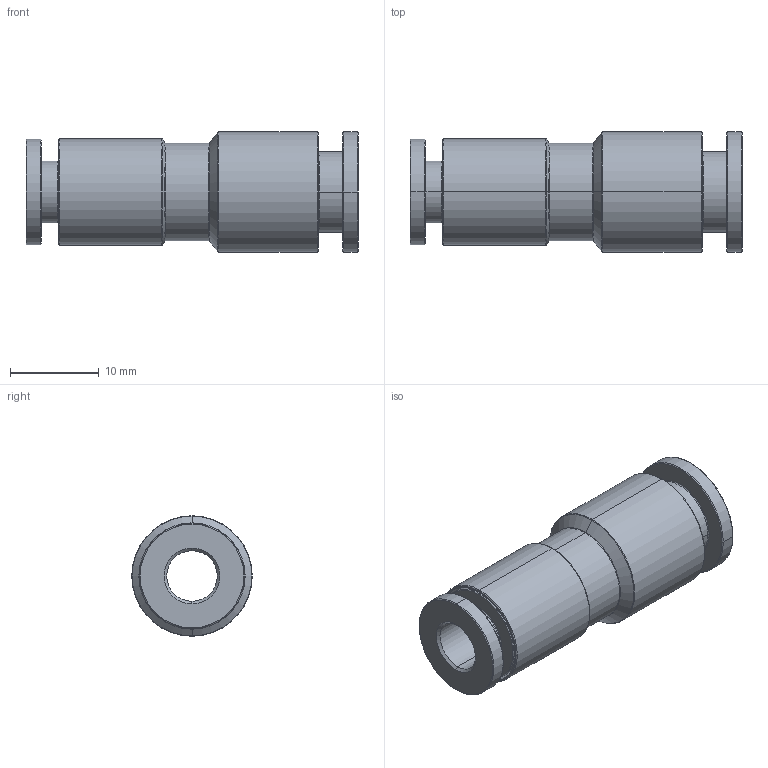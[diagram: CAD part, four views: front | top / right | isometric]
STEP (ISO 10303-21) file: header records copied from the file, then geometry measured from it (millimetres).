
FILE_DESCRIPTION((''),'2;1');
FILE_NAME('PRT0001','2025-10-29T09:04:54',('EMC03181'),(''),'CREO PARAMETRIC BY PTC INC, 2022073','CREO PARAMETRIC BY PTC INC, 2022073','');
FILE_SCHEMA(('CONFIG_CONTROL_DESIGN'));
Length unit declared in the file: millimetre
Products named in the file (1): PRT0001
Bounding box: 37.5 x 13.6 x 13.6 mm (x, y, z)
Volume: 2741.1 mm3; surface area: 4227.6 mm2
Topology: 1 solids, 1 shells, 77 faces, 154 edges, 88 vertices
Faces by surface type: torus 32, cylinder 26, plane 11, cone 8
Entity records: 2058 total; most frequent: DIRECTION 428, CARTESIAN_POINT 319, ORIENTED_EDGE 308, AXIS2_PLACEMENT_3D 197, EDGE_CURVE 154, CIRCLE 120, VERTEX_POINT 88, EDGE_LOOP 88
